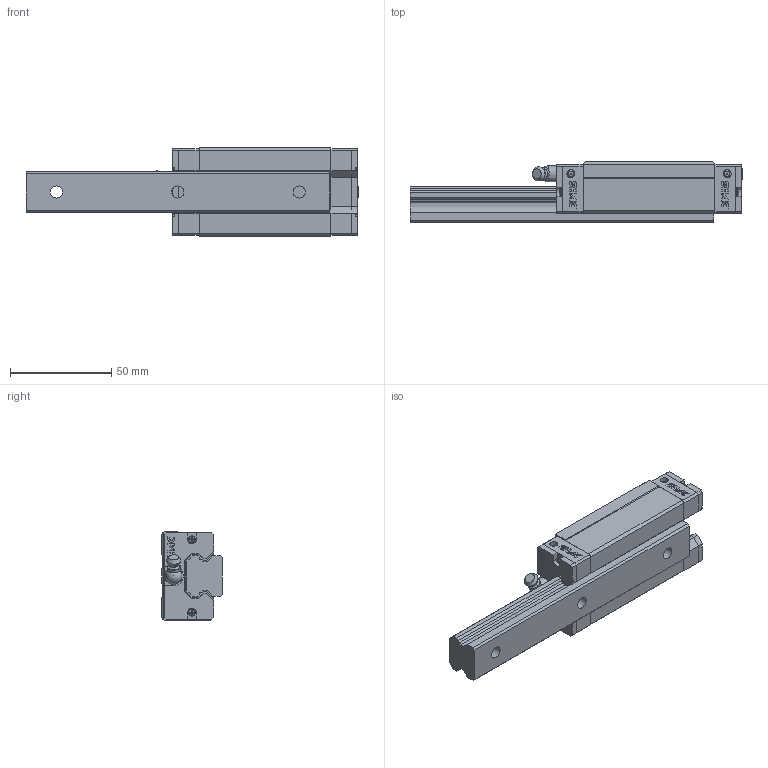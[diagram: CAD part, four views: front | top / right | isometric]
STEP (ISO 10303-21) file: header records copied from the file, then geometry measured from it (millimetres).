
FILE_DESCRIPTION( ( 'STEP AP214' ), '1' );
FILE_NAME( 'F:/品牌/SHAC 台湾鼎翰传动科技有限公司/3D滑块/GHH20HA1R150Z0C-15_15_1_1_.stp', '2025-04-21T22:44:21', ( 'License CC BY-ND 4.0' ), ( 'CADENAS' ), ' ', 'PARTsolutions', ' ' );
FILE_SCHEMA( ( 'AUTOMOTIVE_DESIGN { 1 0 10303 214 1 1 1 1 }' ) );
Length unit declared in the file: millimetre
Products named in the file (8): GHH20HA1R150Z0C-15/15(1_1); _GHR20R150C+RC-15/15(1)_RAIL; _GHH20HA_SLIDER; _GHH20HA_C; _GHH20HA_P; _GH20_SCREW; _GH20_BOLT; _GH20-_G
Assembly tree (12 placements, depth 2):
  GHH20HA1R150Z0C-15/15(1_1)
    _GHR20R150C+RC-15/15(1)_RAIL
    _GHH20HA_SLIDER
    _GHH20HA_C  x2
    _GHH20HA_P  x2
    _GH20_SCREW  x4
    _GH20_BOLT
    _GH20-_G
Bounding box: 164.04 x 30 x 44 mm (x, y, z)
Volume: 123252.6 mm3; surface area: 37968.7 mm2
Topology: 12 solids, 12 shells, 772 faces, 2066 edges, 1367 vertices
Faces by surface type: plane 624, cylinder 108, cone 24, torus 10, sphere 5, bspline 1
Full cylindrical faces by diameter (mm): 0.53 x4, 3 x4, 3.414 x4, 3.93 x6, 4.134 x4, 4.5 x1, 6 x7, 8 x1, 8.2 x1, 9.5 x3
Entity records: 17940 total; most frequent: CARTESIAN_POINT 2647, ORIENTED_EDGE 2352, DIRECTION 2271, EDGE_CURVE 1176, LINE 971, VECTOR 971, VERTEX_POINT 806, AXIS2_PLACEMENT_3D 650
